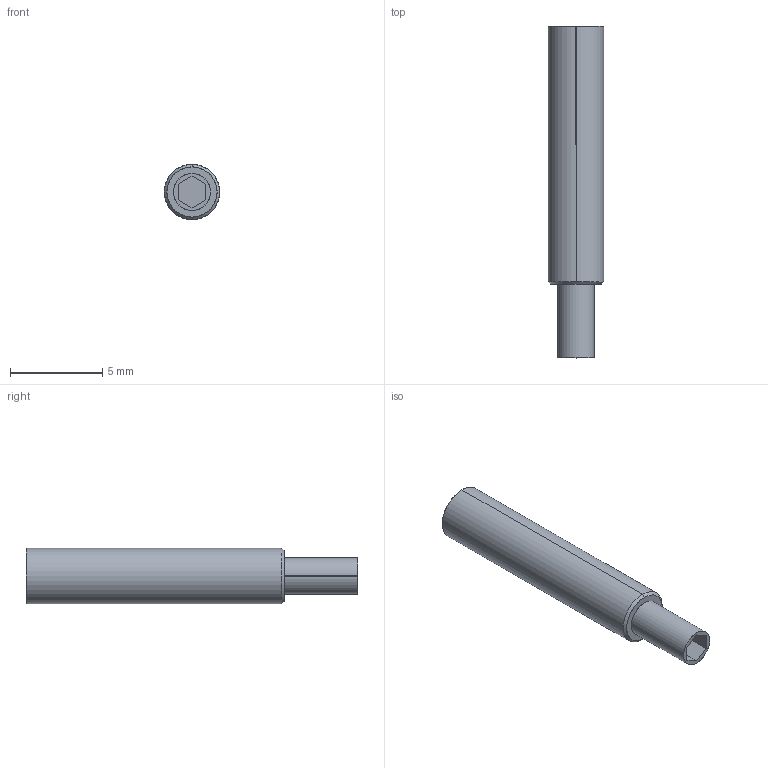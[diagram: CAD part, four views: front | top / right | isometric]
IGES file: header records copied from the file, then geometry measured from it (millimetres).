
Start section: SolidWorks IGES file using analytic representation for surfaces
Global section: file name: C:\temp\GO\Files\DFY03-27.igs; native system: SolidWorks 2023; preprocessor: SolidWorks 2023; author: andrew.sweeney; date: 260123.162243; units: millimetre
Bounding box: 3 x 18 x 3 mm (x, y, z)
Surface area: 257 mm2 (no closed solid volume)
Topology: 0 solids, 0 shells, 197 faces, 2018 edges, 2018 vertices
Faces by surface type: bspline 183, revolution 14
